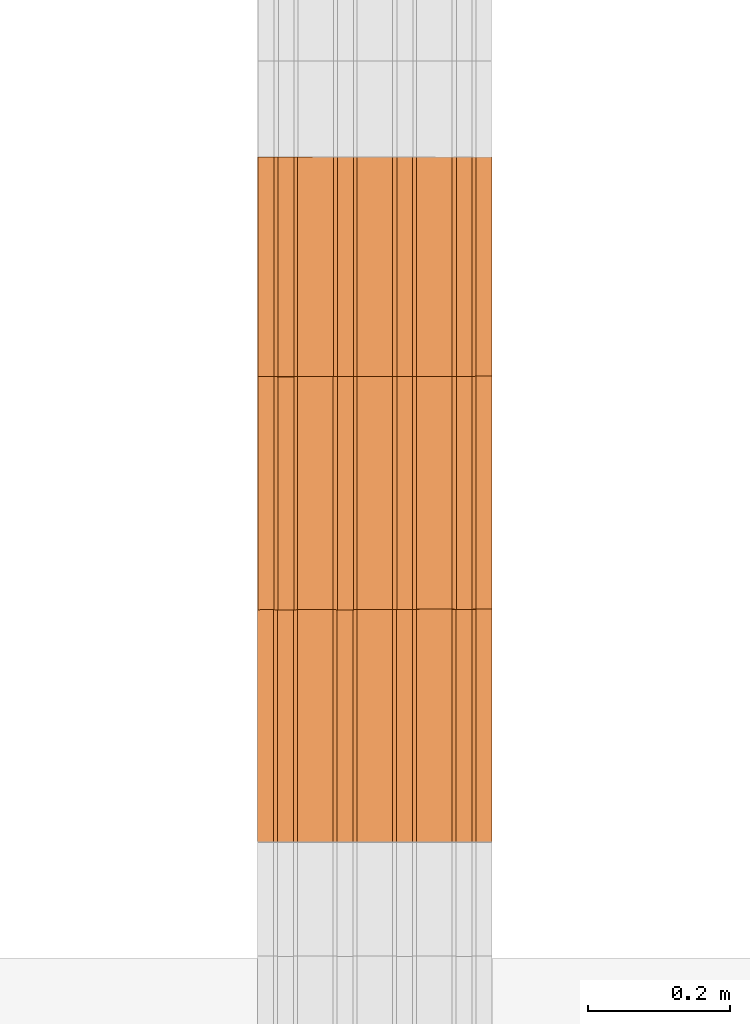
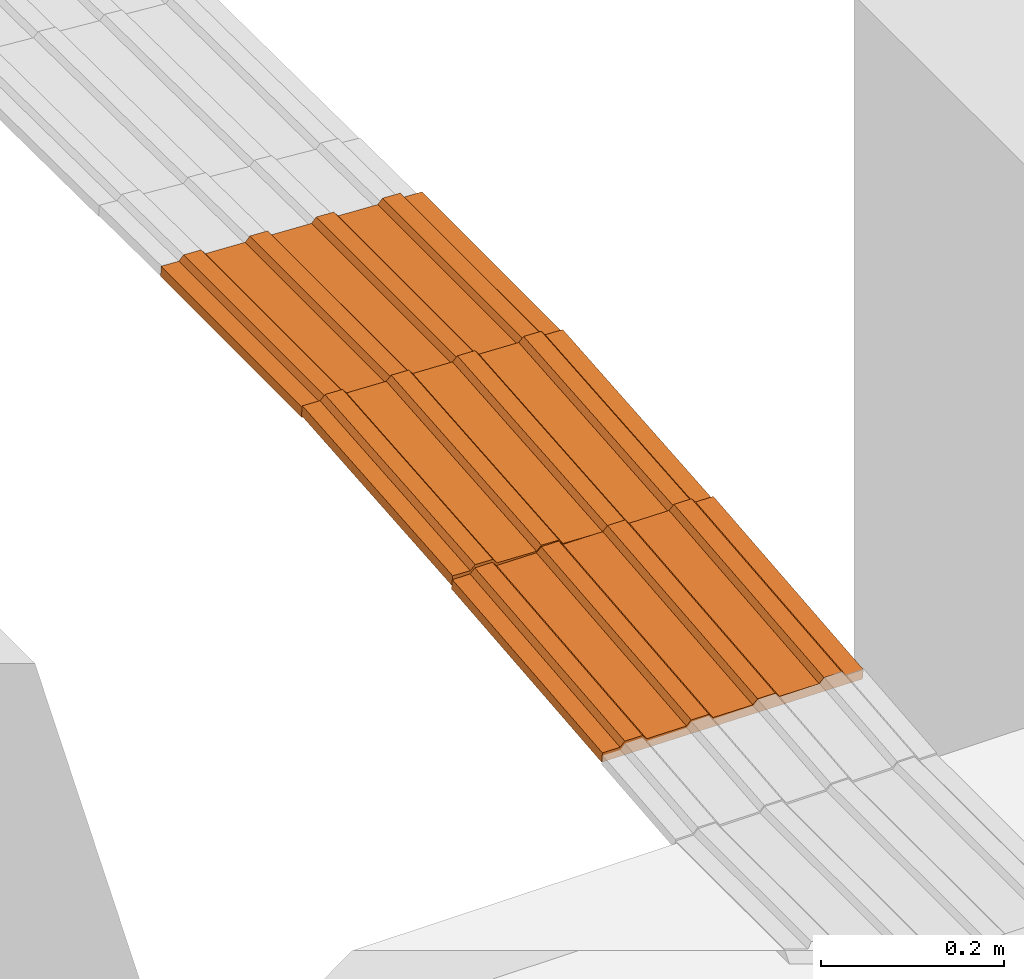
# One storey, part 234 of 237: 3 proxies.
"""IFC2X3 building model written with IfcOpenShell, lengths in millimetres."""

from ifc_helpers import new_model, entity, si_unit, converted_unit, derived_unit, money_unit, direction, frame, origin_with_axes, place, context, subcontext, project, spatial, open_shell, surface_model, type_object, element, save


model = new_model("IFC2X3")

# Units and contexts
model_context = context("Model", 3, precision=0.01, world=origin_with_axes(), true_north=direction((0.0, 1.0)))
body_context = subcontext(model_context, "Body", "Model", "MODEL_VIEW")
ifc_project = project(units=[si_unit("LENGTHUNIT", "METRE", prefix="MILLI"), si_unit("AREAUNIT", "SQUARE_METRE"), si_unit("VOLUMEUNIT", "CUBIC_METRE"), converted_unit("PLANEANGLEUNIT", "DEGREE", entity("IfcPlaneAngleMeasure", 0.0174532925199), si_unit("PLANEANGLEUNIT", "RADIAN"), dimensions=[0, 0, 0, 0, 0, 0, 0]), money_unit("USD"), converted_unit("TIMEUNIT", "Year", entity("IfcTimeMeasure", 31556926.0), si_unit("TIMEUNIT", "SECOND"), dimensions=[0, 0, 1, 0, 0, 0, 0]), si_unit("MASSUNIT", "GRAM", prefix="KILO"), si_unit("THERMODYNAMICTEMPERATUREUNIT", "DEGREE_CELSIUS"), si_unit("LUMINOUSINTENSITYUNIT", "LUMEN"), si_unit("ENERGYUNIT", "JOULE", prefix="MEGA"), derived_unit("THERMALCONDUCTANCEUNIT", [(si_unit("POWERUNIT", "WATT"), 1), (si_unit("LENGTHUNIT", "METRE"), -1), (si_unit("THERMODYNAMICTEMPERATUREUNIT", "KELVIN"), -1)]), derived_unit("SPECIFICHEATCAPACITYUNIT", [(si_unit("ENERGYUNIT", "JOULE"), 1), (si_unit("MASSUNIT", "GRAM", prefix="KILO"), -1), (si_unit("THERMODYNAMICTEMPERATUREUNIT", "KELVIN"), -1)]), derived_unit("MASSDENSITYUNIT", [(si_unit("MASSUNIT", "GRAM", prefix="KILO"), 1), (si_unit("VOLUMEUNIT", "CUBIC_METRE"), -1)])], contexts=[model_context])

# Site, building, storey
site_placement = place(None, origin_with_axes())
site = spatial("IfcSite", under=ifc_project, at=site_placement, Name="Local", CompositionType="ELEMENT")
building_placement = place(site_placement, origin_with_axes())
building = spatial("IfcBuilding", under=site, at=building_placement, Name="Construção", CompositionType="ELEMENT")
storey_placement = place(building_placement, origin_with_axes())
storey = spatial("IfcBuildingStorey", under=building, at=storey_placement, Name="Pavimento Térreo", CompositionType="ELEMENT", Elevation=0.0)

# Proxies
building_element_proxy_type = type_object("IfcBuildingElementProxyType", Name="Piso Direcional 27", PredefinedType="NOTDEFINED")
proxy_1_placement = place(storey_placement, frame((123836.79662, 36247.3798861, -7196.11558524), z_axis=(0.0, 0.0, 1.0), x_axis=(0.0, -1.0, 0.0)))
element("IfcBuildingElementProxy", 1, at=proxy_1_placement, inside=storey, type_object=building_element_proxy_type, Name="Objeto-0055", context=body_context, shape_type="SurfaceModel", body=[
    surface_model("IfcShellBasedSurfaceModel", [(0.0221037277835, -47.0050131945, 6.33222584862), (308.873310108, -47.0050131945, 5.25412737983), (308.895599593, -41.0928052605, 11.6395685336), (0.0443932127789, -41.0928052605, 12.7176670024)], [open_shell([[[0, 1, 2, 3]]])]),
    surface_model("IfcShellBasedSurfaceModel", [(308.844944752, -153.800656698, -2.87191528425), (308.788673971, 175.805368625, -18.9922411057), (308.835160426, 176.456698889, -5.67490707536), (308.838975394, 154.11052768, -4.58200362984), (308.863172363, 148.84965001, 2.34988924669), (308.866987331, 126.503478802, 3.44279269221), (308.844697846, 120.591270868, -2.94264846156), (308.853281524, 70.3123856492, -0.483615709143), (308.877478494, 65.051507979, 6.44827716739), (308.881293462, 42.7053367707, 7.54118061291), (308.859003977, 36.7931288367, 1.15573945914), (308.867587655, -13.485756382, 3.61477221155), (308.891784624, -18.7466340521, 10.5466650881), (308.895599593, -41.0928052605, 11.6395685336), (308.873310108, -47.0050131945, 5.25412737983), (308.881893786, -97.2838984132, 7.71316013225), (308.906090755, -102.544776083, 14.6450530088), (308.909905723, -124.890947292, 15.7379564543), (308.887616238, -130.803155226, 9.35251530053), (308.891431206, -153.149326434, 10.4454187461)], [open_shell([[[0, 1, 2, 3, 4, 5, 6, 7, 8, 9, 10, 11, 12, 13, 14, 15, 16, 17, 18, 19]]])]),
    surface_model("IfcShellBasedSurfaceModel", [(0.040578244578, -18.7466340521, 11.6247635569), (308.891784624, -18.7466340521, 10.5466650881), (308.867587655, -13.485756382, 3.61477221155), (0.0163812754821, -13.485756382, 4.69287068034)], [open_shell([[[0, 1, 2, 3]]])]),
    surface_model("IfcShellBasedSurfaceModel", [(0.0548843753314, -102.544776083, 15.7231514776), (308.906090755, -102.544776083, 14.6450530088), (308.881893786, -97.2838984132, 7.71316013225), (0.0306874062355, -97.2838984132, 8.79125860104)], [open_shell([[[0, 1, 2, 3]]])]),
    surface_model("IfcShellBasedSurfaceModel", [(0.0262721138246, 65.051507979, 7.52637563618), (308.877478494, 65.051507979, 6.44827716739), (308.853281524, 70.3123856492, -0.483615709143), (0.00207514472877, 70.3123856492, 0.594482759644)], [open_shell([[[0, 1, 2, 3]]])]),
    surface_model("IfcShellBasedSurfaceModel", [(0.00779759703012, 36.7931288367, 2.23383792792), (308.859003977, 36.7931288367, 1.15573945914), (308.881293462, 42.7053367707, 7.54118061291), (0.0300870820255, 42.7053367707, 8.61927908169)], [open_shell([[[0, 1, 2, 3]]])]),
    surface_model("IfcShellBasedSurfaceModel", [(0.0364098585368, -130.803155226, 10.4306137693), (308.887616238, -130.803155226, 9.35251530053), (308.909905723, -124.890947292, 15.7379564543), (0.0586993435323, -124.890947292, 16.8160549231)], [open_shell([[[0, 1, 2, 3]]])]),
    surface_model("IfcShellBasedSurfaceModel", [(-0.0160459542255, 176.456698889, -4.59680860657), (-0.0122309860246, 154.11052768, -3.50390516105), (308.838975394, 154.11052768, -4.58200362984), (308.835160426, 176.456698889, -5.67490707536)], [open_shell([[[0, 1, 2, 3]]])]),
    surface_model("IfcShellBasedSurfaceModel", [(-0.00650853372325, 120.591270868, -1.86454999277), (308.844697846, 120.591270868, -2.94264846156), (308.866987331, 126.503478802, 3.44279269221), (0.0157809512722, 126.503478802, 4.520891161)], [open_shell([[[0, 1, 2, 3]]])]),
    surface_model("IfcShellBasedSurfaceModel", [(0.0119659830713, 148.84965001, 3.42798771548), (308.863172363, 148.84965001, 2.34988924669), (308.838975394, 154.11052768, -4.58200362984), (-0.0122309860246, 154.11052768, -3.50390516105)], [open_shell([[[0, 1, 2, 3]]])]),
    surface_model("IfcShellBasedSurfaceModel", [(0.00779759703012, 36.7931288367, 2.23383792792), (0.0163812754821, -13.485756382, 4.69287068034), (308.867587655, -13.485756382, 3.61477221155), (308.859003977, 36.7931288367, 1.15573945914)], [open_shell([[[0, 1, 2, 3]]])]),
    surface_model("IfcShellBasedSurfaceModel", [(-0.00650853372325, 120.591270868, -1.86454999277), (0.00207514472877, 70.3123856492, 0.594482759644), (308.853281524, 70.3123856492, -0.483615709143), (308.844697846, 120.591270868, -2.94264846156)], [open_shell([[[0, 1, 2, 3]]])]),
    surface_model("IfcShellBasedSurfaceModel", [(0.0119659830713, 148.84965001, 3.42798771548), (0.0157809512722, 126.503478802, 4.520891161), (308.866987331, 126.503478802, 3.44279269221), (308.863172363, 148.84965001, 2.34988924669)], [open_shell([[[0, 1, 2, 3]]])]),
    surface_model("IfcShellBasedSurfaceModel", [(-0.00650853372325, 120.591270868, -1.86454999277), (0.0157809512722, 126.503478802, 4.520891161), (0.0119659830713, 148.84965001, 3.42798771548), (-0.0122309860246, 154.11052768, -3.50390516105), (-0.0160459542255, 176.456698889, -4.59680860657), (-0.0625324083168, 175.805368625, -17.9141426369), (-0.00626162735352, -153.800656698, -1.79381681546), (0.0402248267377, -153.149326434, 11.5235172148), (0.0364098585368, -130.803155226, 10.4306137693), (0.0586993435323, -124.890947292, 16.8160549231), (0.0548843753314, -102.544776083, 15.7231514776), (0.0306874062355, -97.2838984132, 8.79125860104), (0.0221037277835, -47.0050131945, 6.33222584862), (0.0443932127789, -41.0928052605, 12.7176670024), (0.040578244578, -18.7466340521, 11.6247635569), (0.0163812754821, -13.485756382, 4.69287068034), (0.00779759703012, 36.7931288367, 2.23383792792), (0.0300870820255, 42.7053367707, 8.61927908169), (0.0262721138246, 65.051507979, 7.52637563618), (0.00207514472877, 70.3123856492, 0.594482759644)], [open_shell([[[0, 1, 2, 3, 4, 5, 6, 7, 8, 9, 10, 11, 12, 13, 14, 15, 16, 17, 18, 19]]])]),
    surface_model("IfcShellBasedSurfaceModel", [(308.895599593, -41.0928052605, 11.6395685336), (308.891784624, -18.7466340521, 10.5466650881), (0.040578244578, -18.7466340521, 11.6247635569), (0.0443932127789, -41.0928052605, 12.7176670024)], [open_shell([[[0, 1, 2, 3]]])]),
    surface_model("IfcShellBasedSurfaceModel", [(0.0221037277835, -47.0050131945, 6.33222584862), (0.0306874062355, -97.2838984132, 8.79125860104), (308.881893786, -97.2838984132, 7.71316013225), (308.873310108, -47.0050131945, 5.25412737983)], [open_shell([[[0, 1, 2, 3]]])]),
    surface_model("IfcShellBasedSurfaceModel", [(308.881293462, 42.7053367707, 7.54118061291), (308.877478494, 65.051507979, 6.44827716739), (0.0262721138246, 65.051507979, 7.52637563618), (0.0300870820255, 42.7053367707, 8.61927908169)], [open_shell([[[0, 1, 2, 3]]])]),
    surface_model("IfcShellBasedSurfaceModel", [(308.909905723, -124.890947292, 15.7379564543), (308.906090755, -102.544776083, 14.6450530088), (0.0548843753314, -102.544776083, 15.7231514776), (0.0586993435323, -124.890947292, 16.8160549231)], [open_shell([[[0, 1, 2, 3]]])]),
    surface_model("IfcShellBasedSurfaceModel", [(308.788673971, 175.805368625, -18.9922411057), (-0.0625324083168, 175.805368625, -17.9141426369), (-0.0160459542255, 176.456698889, -4.59680860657), (308.835160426, 176.456698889, -5.67490707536)], [open_shell([[[0, 1, 2, 3]]])]),
    surface_model("IfcShellBasedSurfaceModel", [(308.844944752, -153.800656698, -2.87191528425), (-0.00626162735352, -153.800656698, -1.79381681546), (-0.0625324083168, 175.805368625, -17.9141426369), (308.788673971, 175.805368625, -18.9922411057)], [open_shell([[[0, 1, 2, 3]]])]),
    surface_model("IfcShellBasedSurfaceModel", [(308.891431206, -153.149326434, 10.4454187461), (308.887616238, -130.803155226, 9.35251530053), (0.0364098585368, -130.803155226, 10.4306137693), (0.0402248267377, -153.149326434, 11.5235172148)], [open_shell([[[0, 1, 2, 3]]])]),
    surface_model("IfcShellBasedSurfaceModel", [(-0.00626162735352, -153.800656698, -1.79381681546), (308.844944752, -153.800656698, -2.87191528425), (308.891431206, -153.149326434, 10.4454187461), (0.0402248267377, -153.149326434, 11.5235172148)], [open_shell([[[0, 1, 2, 3]]])]),
])
proxy_2_placement = place(storey_placement, frame((123836.79662, 35939.0693057, -7194.19717043), z_axis=(0.0, 0.0, 1.0), x_axis=(0.0, -1.0, 0.0)))
element("IfcBuildingElementProxy", 2, at=proxy_2_placement, inside=storey, type_object=building_element_proxy_type, Name="Objeto-0055", context=body_context, shape_type="SurfaceModel", body=[
    surface_model("IfcShellBasedSurfaceModel", [(0.509268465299, -47.0375243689, 6.06471640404), (329.351912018, -47.0375243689, -21.5489718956), (329.888818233, -41.1588316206, -15.1551263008), (1.04617468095, -41.1588316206, 12.4585619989)], [open_shell([[[0, 1, 2, 3]]])]),
    surface_model("IfcShellBasedSurfaceModel", [(328.625156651, -153.789156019, -30.2036707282), (327.420664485, 175.896757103, -44.5475853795), (328.535307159, 176.478348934, -31.2736597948), (328.616967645, 154.126761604, -30.3011910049), (329.194704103, 148.829660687, -23.4211110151), (329.276364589, 126.478073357, -22.4486422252), (328.739458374, 120.599380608, -28.84248782), (328.923194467, 70.3083091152, -26.6544330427), (329.500930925, 65.0112081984, -19.7743530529), (329.582591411, 42.6596208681, -18.801884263), (329.045685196, 36.7809281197, -25.1957298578), (329.229421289, -13.5101433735, -23.0076750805), (329.807157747, -18.8072442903, -16.1275950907), (329.888818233, -41.1588316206, -15.1551263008), (329.351912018, -47.0375243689, -21.5489718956), (329.535648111, -97.3285958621, -19.3609171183), (330.113384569, -102.625696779, -12.4808371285), (330.195045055, -124.977284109, -11.5083683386), (329.65813884, -130.855976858, -17.9022139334), (329.739799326, -153.207564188, -16.9297451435)], [open_shell([[[0, 1, 2, 3, 4, 5, 6, 7, 8, 9, 10, 11, 12, 13, 14, 15, 16, 17, 18, 19]]])]),
    surface_model("IfcShellBasedSurfaceModel", [(0.964514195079, -18.8072442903, 11.486093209), (329.807157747, -18.8072442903, -16.1275950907), (329.229421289, -13.5101433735, -23.0076750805), (0.3867777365, -13.5101433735, 4.60601321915)], [open_shell([[[0, 1, 2, 3]]])]),
    surface_model("IfcShellBasedSurfaceModel", [(1.27074101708, -102.625696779, 15.1328511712), (330.113384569, -102.625696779, -12.4808371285), (329.535648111, -97.3285958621, -19.3609171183), (0.693004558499, -97.3285958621, 8.25277118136)], [open_shell([[[0, 1, 2, 3]]])]),
    surface_model("IfcShellBasedSurfaceModel", [(0.658287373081, 65.0112081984, 7.83933524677), (329.500930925, 65.0112081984, -19.7743530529), (328.923194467, 70.3083091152, -26.6544330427), (0.080550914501, 70.3083091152, 0.959255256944)], [open_shell([[[0, 1, 2, 3]]])]),
    surface_model("IfcShellBasedSurfaceModel", [(0.203041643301, 36.7809281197, 2.41795844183), (329.045685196, 36.7809281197, -25.1957298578), (329.582591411, 42.6596208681, -18.801884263), (0.739947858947, 42.6596208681, 8.8118040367)], [open_shell([[[0, 1, 2, 3]]])]),
    surface_model("IfcShellBasedSurfaceModel", [(0.815495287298, -130.855976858, 9.71147436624), (329.65813884, -130.855976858, -17.9022139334), (330.195045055, -124.977284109, -11.5083683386), (1.35240150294, -124.977284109, 16.1053199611)], [open_shell([[[0, 1, 2, 3]]])]),
    surface_model("IfcShellBasedSurfaceModel", [(-0.307336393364, 176.478348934, -3.65997149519), (-0.225675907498, 154.126761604, -2.68750270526), (328.616967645, 154.126761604, -30.3011910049), (328.535307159, 176.478348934, -31.2736597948)], [open_shell([[[0, 1, 2, 3]]])]),
    surface_model("IfcShellBasedSurfaceModel", [(-0.103185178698, 120.599380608, -1.22879952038), (328.739458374, 120.599380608, -28.84248782), (329.276364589, 126.478073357, -22.4486422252), (0.433721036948, 126.478073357, 5.16504607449)], [open_shell([[[0, 1, 2, 3]]])]),
    surface_model("IfcShellBasedSurfaceModel", [(0.352060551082, 148.829660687, 4.19257728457), (329.194704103, 148.829660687, -23.4211110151), (328.616967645, 154.126761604, -30.3011910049), (-0.225675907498, 154.126761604, -2.68750270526)], [open_shell([[[0, 1, 2, 3]]])]),
    surface_model("IfcShellBasedSurfaceModel", [(0.203041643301, 36.7809281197, 2.41795844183), (0.3867777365, -13.5101433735, 4.60601321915), (329.229421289, -13.5101433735, -23.0076750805), (329.045685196, 36.7809281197, -25.1957298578)], [open_shell([[[0, 1, 2, 3]]])]),
    surface_model("IfcShellBasedSurfaceModel", [(-0.103185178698, 120.599380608, -1.22879952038), (0.080550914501, 70.3083091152, 0.959255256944), (328.923194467, 70.3083091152, -26.6544330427), (328.739458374, 120.599380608, -28.84248782)], [open_shell([[[0, 1, 2, 3]]])]),
    surface_model("IfcShellBasedSurfaceModel", [(0.352060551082, 148.829660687, 4.19257728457), (0.433721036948, 126.478073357, 5.16504607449), (329.276364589, 126.478073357, -22.4486422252), (329.194704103, 148.829660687, -23.4211110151)], [open_shell([[[0, 1, 2, 3]]])]),
    surface_model("IfcShellBasedSurfaceModel", [(-0.103185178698, 120.599380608, -1.22879952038), (0.433721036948, 126.478073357, 5.16504607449), (0.352060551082, 148.829660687, 4.19257728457), (-0.225675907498, 154.126761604, -2.68750270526), (-0.307336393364, 176.478348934, -3.65997149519), (-1.42197906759, 175.896757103, -16.9338970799), (-0.217486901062, -153.789156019, -2.58998242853), (0.897155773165, -153.207564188, 10.6839431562), (0.815495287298, -130.855976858, 9.71147436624), (1.35240150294, -124.977284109, 16.1053199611), (1.27074101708, -102.625696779, 15.1328511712), (0.693004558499, -97.3285958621, 8.25277118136), (0.509268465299, -47.0375243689, 6.06471640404), (1.04617468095, -41.1588316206, 12.4585619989), (0.964514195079, -18.8072442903, 11.486093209), (0.3867777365, -13.5101433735, 4.60601321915), (0.203041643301, 36.7809281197, 2.41795844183), (0.739947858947, 42.6596208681, 8.8118040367), (0.658287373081, 65.0112081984, 7.83933524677), (0.080550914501, 70.3083091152, 0.959255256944)], [open_shell([[[0, 1, 2, 3, 4, 5, 6, 7, 8, 9, 10, 11, 12, 13, 14, 15, 16, 17, 18, 19]]])]),
    surface_model("IfcShellBasedSurfaceModel", [(329.888818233, -41.1588316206, -15.1551263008), (329.807157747, -18.8072442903, -16.1275950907), (0.964514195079, -18.8072442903, 11.486093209), (1.04617468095, -41.1588316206, 12.4585619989)], [open_shell([[[0, 1, 2, 3]]])]),
    surface_model("IfcShellBasedSurfaceModel", [(0.509268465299, -47.0375243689, 6.06471640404), (0.693004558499, -97.3285958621, 8.25277118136), (329.535648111, -97.3285958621, -19.3609171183), (329.351912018, -47.0375243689, -21.5489718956)], [open_shell([[[0, 1, 2, 3]]])]),
    surface_model("IfcShellBasedSurfaceModel", [(329.582591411, 42.6596208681, -18.801884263), (329.500930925, 65.0112081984, -19.7743530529), (0.658287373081, 65.0112081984, 7.83933524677), (0.739947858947, 42.6596208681, 8.8118040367)], [open_shell([[[0, 1, 2, 3]]])]),
    surface_model("IfcShellBasedSurfaceModel", [(330.195045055, -124.977284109, -11.5083683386), (330.113384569, -102.625696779, -12.4808371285), (1.27074101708, -102.625696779, 15.1328511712), (1.35240150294, -124.977284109, 16.1053199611)], [open_shell([[[0, 1, 2, 3]]])]),
    surface_model("IfcShellBasedSurfaceModel", [(327.420664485, 175.896757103, -44.5475853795), (-1.42197906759, 175.896757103, -16.9338970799), (-0.307336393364, 176.478348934, -3.65997149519), (328.535307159, 176.478348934, -31.2736597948)], [open_shell([[[0, 1, 2, 3]]])]),
    surface_model("IfcShellBasedSurfaceModel", [(328.625156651, -153.789156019, -30.2036707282), (-0.217486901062, -153.789156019, -2.58998242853), (-1.42197906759, 175.896757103, -16.9338970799), (327.420664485, 175.896757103, -44.5475853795)], [open_shell([[[0, 1, 2, 3]]])]),
    surface_model("IfcShellBasedSurfaceModel", [(329.739799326, -153.207564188, -16.9297451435), (329.65813884, -130.855976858, -17.9022139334), (0.815495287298, -130.855976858, 9.71147436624), (0.897155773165, -153.207564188, 10.6839431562)], [open_shell([[[0, 1, 2, 3]]])]),
    surface_model("IfcShellBasedSurfaceModel", [(-0.217486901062, -153.789156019, -2.58998242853), (328.625156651, -153.789156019, -30.2036707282), (329.739799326, -153.207564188, -16.9297451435), (0.897155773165, -153.207564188, 10.6839431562)], [open_shell([[[0, 1, 2, 3]]])]),
])
proxy_3_placement = place(storey_placement, frame((123836.79662, 35610.3352431, -7222.51151178), z_axis=(0.0, 0.0, 1.0), x_axis=(0.0, -1.0, 0.0)))
element("IfcBuildingElementProxy", 3, at=proxy_3_placement, inside=storey, type_object=building_element_proxy_type, Name="Objeto-0055", context=body_context, shape_type="SurfaceModel", body=[
    surface_model("IfcShellBasedSurfaceModel", [(0.457464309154, -47.197371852, 4.6655819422), (328.882506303, -47.197371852, -27.5367749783), (329.52537496, -41.5116155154, -20.9802932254), (1.10033296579, -41.5116155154, 11.2220636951)], [open_shell([[[0, 1, 2, 3]]])]),
    surface_model("IfcShellBasedSurfaceModel", [(327.726319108, -153.644361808, -39.3284841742), (327.276703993, 176.323471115, -43.9140138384), (328.577682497, 176.50963352, -30.645608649), (328.608164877, 154.138932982, -30.3347252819), (329.266274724, 148.63933905, -23.6228018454), (329.296757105, 126.268638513, -23.3119184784), (328.653888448, 120.582882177, -29.8684002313), (328.722473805, 70.2488059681, -29.1689126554), (329.380583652, 64.7492120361, -22.4569892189), (329.411066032, 42.3785114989, -22.1461058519), (328.768197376, 36.6927551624, -28.7025876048), (328.836782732, -13.6413210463, -28.0031000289), (329.494892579, -19.1409149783, -21.2911765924), (329.52537496, -41.5116155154, -20.9802932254), (328.882506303, -47.197371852, -27.5367749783), (328.95109166, -97.5314480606, -26.8372874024), (329.609201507, -103.031041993, -20.125363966), (329.639683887, -125.40174253, -19.8144805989), (328.996815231, -131.087498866, -26.3709623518), (329.027297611, -153.458199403, -26.0600789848)], [open_shell([[[0, 1, 2, 3, 4, 5, 6, 7, 8, 9, 10, 11, 12, 13, 14, 15, 16, 17, 18, 19]]])]),
    surface_model("IfcShellBasedSurfaceModel", [(1.06985058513, -19.1409149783, 10.9111803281), (329.494892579, -19.1409149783, -21.2911765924), (328.836782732, -13.6413210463, -28.0031000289), (0.411740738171, -13.6413210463, 4.1992568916)], [open_shell([[[0, 1, 2, 3]]])]),
    surface_model("IfcShellBasedSurfaceModel", [(1.18415951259, -103.031041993, 12.0769929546), (329.609201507, -103.031041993, -20.125363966), (328.95109166, -97.5314480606, -26.8372874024), (0.526049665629, -97.5314480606, 5.3650695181)], [open_shell([[[0, 1, 2, 3]]])]),
    surface_model("IfcShellBasedSurfaceModel", [(0.955541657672, 64.7492120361, 9.74536770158), (329.380583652, 64.7492120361, -22.4569892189), (328.722473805, 70.2488059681, -29.1689126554), (0.297431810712, 70.2488059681, 3.03344426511)], [open_shell([[[0, 1, 2, 3]]])]),
    surface_model("IfcShellBasedSurfaceModel", [(0.343155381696, 36.6927551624, 3.49976931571), (328.768197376, 36.6927551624, -28.7025876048), (329.411066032, 42.3785114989, -22.1461058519), (0.986024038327, 42.3785114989, 10.0562510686)], [open_shell([[[0, 1, 2, 3]]])]),
    surface_model("IfcShellBasedSurfaceModel", [(0.571773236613, -131.087498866, 5.8313945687), (328.996815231, -131.087498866, -26.3709623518), (329.639683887, -125.40174253, -19.8144805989), (1.21464189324, -125.40174253, 12.3878763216)], [open_shell([[[0, 1, 2, 3]]])]),
    surface_model("IfcShellBasedSurfaceModel", [(0.152640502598, 176.50963352, 1.55674827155), (0.183122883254, 154.138932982, 1.86763163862), (328.608164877, 154.138932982, -30.3347252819), (328.577682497, 176.50963352, -30.645608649)], [open_shell([[[0, 1, 2, 3]]])]),
    surface_model("IfcShellBasedSurfaceModel", [(0.228846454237, 120.582882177, 2.33395668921), (328.653888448, 120.582882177, -29.8684002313), (329.296757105, 126.268638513, -23.3119184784), (0.871715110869, 126.268638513, 8.89043844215)], [open_shell([[[0, 1, 2, 3]]])]),
    surface_model("IfcShellBasedSurfaceModel", [(0.841232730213, 148.63933905, 8.57955507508), (329.266274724, 148.63933905, -23.6228018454), (328.608164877, 154.138932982, -30.3347252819), (0.183122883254, 154.138932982, 1.86763163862)], [open_shell([[[0, 1, 2, 3]]])]),
    surface_model("IfcShellBasedSurfaceModel", [(0.343155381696, 36.6927551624, 3.49976931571), (0.411740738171, -13.6413210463, 4.1992568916), (328.836782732, -13.6413210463, -28.0031000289), (328.768197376, 36.6927551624, -28.7025876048)], [open_shell([[[0, 1, 2, 3]]])]),
    surface_model("IfcShellBasedSurfaceModel", [(0.228846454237, 120.582882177, 2.33395668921), (0.297431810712, 70.2488059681, 3.03344426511), (328.722473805, 70.2488059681, -29.1689126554), (328.653888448, 120.582882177, -29.8684002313)], [open_shell([[[0, 1, 2, 3]]])]),
    surface_model("IfcShellBasedSurfaceModel", [(0.841232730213, 148.63933905, 8.57955507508), (0.871715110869, 126.268638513, 8.89043844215), (329.296757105, 126.268638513, -23.3119184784), (329.266274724, 148.63933905, -23.6228018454)], [open_shell([[[0, 1, 2, 3]]])]),
    surface_model("IfcShellBasedSurfaceModel", [(0.228846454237, 120.582882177, 2.33395668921), (0.871715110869, 126.268638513, 8.89043844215), (0.841232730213, 148.63933905, 8.57955507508), (0.183122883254, 154.138932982, 1.86763163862), (0.152640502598, 176.50963352, 1.55674827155), (-1.14833800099, 176.323471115, -11.7116569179), (-0.698722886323, -153.644361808, -7.12612725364), (0.602255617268, -153.458199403, 6.14227793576), (0.571773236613, -131.087498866, 5.8313945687), (1.21464189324, -125.40174253, 12.3878763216), (1.18415951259, -103.031041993, 12.0769929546), (0.526049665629, -97.5314480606, 5.3650695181), (0.457464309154, -47.197371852, 4.6655819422), (1.10033296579, -41.5116155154, 11.2220636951), (1.06985058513, -19.1409149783, 10.9111803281), (0.411740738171, -13.6413210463, 4.1992568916), (0.343155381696, 36.6927551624, 3.49976931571), (0.986024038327, 42.3785114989, 10.0562510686), (0.955541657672, 64.7492120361, 9.74536770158), (0.297431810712, 70.2488059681, 3.03344426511)], [open_shell([[[0, 1, 2, 3, 4, 5, 6, 7, 8, 9, 10, 11, 12, 13, 14, 15, 16, 17, 18, 19]]])]),
    surface_model("IfcShellBasedSurfaceModel", [(329.52537496, -41.5116155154, -20.9802932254), (329.494892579, -19.1409149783, -21.2911765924), (1.06985058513, -19.1409149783, 10.9111803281), (1.10033296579, -41.5116155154, 11.2220636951)], [open_shell([[[0, 1, 2, 3]]])]),
    surface_model("IfcShellBasedSurfaceModel", [(0.457464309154, -47.197371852, 4.6655819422), (0.526049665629, -97.5314480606, 5.3650695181), (328.95109166, -97.5314480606, -26.8372874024), (328.882506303, -47.197371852, -27.5367749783)], [open_shell([[[0, 1, 2, 3]]])]),
    surface_model("IfcShellBasedSurfaceModel", [(329.411066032, 42.3785114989, -22.1461058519), (329.380583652, 64.7492120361, -22.4569892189), (0.955541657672, 64.7492120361, 9.74536770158), (0.986024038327, 42.3785114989, 10.0562510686)], [open_shell([[[0, 1, 2, 3]]])]),
    surface_model("IfcShellBasedSurfaceModel", [(329.639683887, -125.40174253, -19.8144805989), (329.609201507, -103.031041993, -20.125363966), (1.18415951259, -103.031041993, 12.0769929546), (1.21464189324, -125.40174253, 12.3878763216)], [open_shell([[[0, 1, 2, 3]]])]),
    surface_model("IfcShellBasedSurfaceModel", [(327.276703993, 176.323471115, -43.9140138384), (-1.14833800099, 176.323471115, -11.7116569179), (0.152640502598, 176.50963352, 1.55674827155), (328.577682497, 176.50963352, -30.645608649)], [open_shell([[[0, 1, 2, 3]]])]),
    surface_model("IfcShellBasedSurfaceModel", [(327.726319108, -153.644361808, -39.3284841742), (-0.698722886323, -153.644361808, -7.12612725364), (-1.14833800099, 176.323471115, -11.7116569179), (327.276703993, 176.323471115, -43.9140138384)], [open_shell([[[0, 1, 2, 3]]])]),
    surface_model("IfcShellBasedSurfaceModel", [(329.027297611, -153.458199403, -26.0600789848), (328.996815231, -131.087498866, -26.3709623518), (0.571773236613, -131.087498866, 5.8313945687), (0.602255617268, -153.458199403, 6.14227793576)], [open_shell([[[0, 1, 2, 3]]])]),
    surface_model("IfcShellBasedSurfaceModel", [(-0.698722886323, -153.644361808, -7.12612725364), (327.726319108, -153.644361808, -39.3284841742), (329.027297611, -153.458199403, -26.0600789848), (0.602255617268, -153.458199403, 6.14227793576)], [open_shell([[[0, 1, 2, 3]]])]),
])

save(model, "model.ifc")
